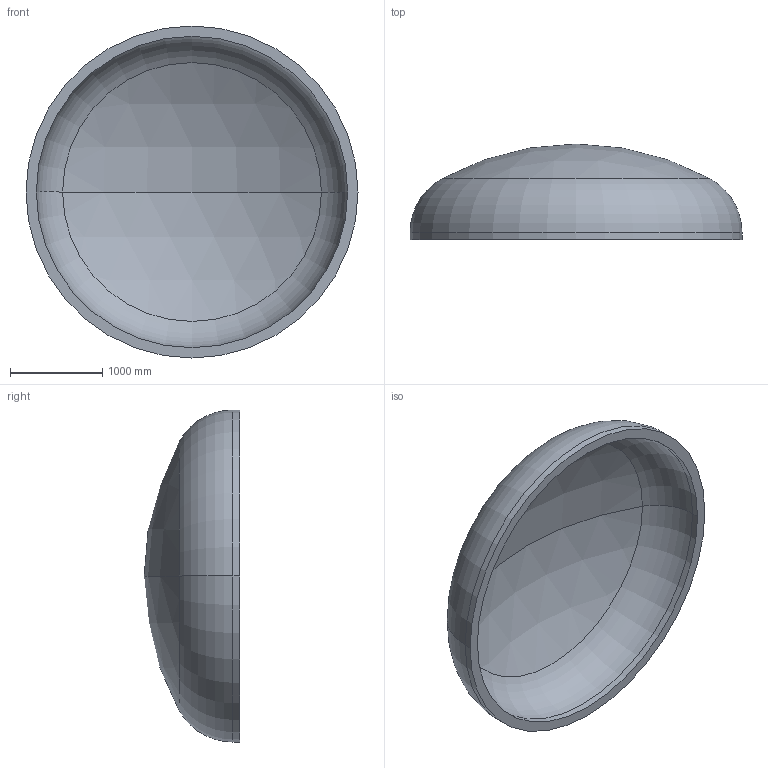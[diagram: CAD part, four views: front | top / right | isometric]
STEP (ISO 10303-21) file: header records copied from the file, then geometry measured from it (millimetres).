
FILE_DESCRIPTION (( 'STEP AP203' ), '1' );
FILE_NAME ('DIN 28013 Korbbogenform_-_Boden DIN 28013 - 3600 x 75 - I - s=112.step', '2016-07-01T20:53:11', ( '' ), ( '' ), 'SwSTEP 2.0', 'SolidWorks 2013', '' );
FILE_SCHEMA (( 'CONFIG_CONTROL_DESIGN' ));
Length unit declared in the file: millimetre
Products named in the file (1): DIN 28013 Korbbogenform_-_Boden DIN 28013 - 3600 x 75 - I - s=112
Bounding box: 3600 x 1036.74 x 3600 mm (x, y, z)
Volume: 1608458410.9 mm3; surface area: 29976016.1 mm2
Topology: 1 solids, 1 shells, 13 faces, 24 edges, 14 vertices
Faces by surface type: torus 4, cylinder 4, sphere 4, plane 1
Entity records: 407 total; most frequent: DIRECTION 72, CARTESIAN_POINT 52, ORIENTED_EDGE 48, AXIS2_PLACEMENT_3D 34, EDGE_CURVE 24, CIRCLE 20, VERTEX_POINT 14, EDGE_LOOP 14
